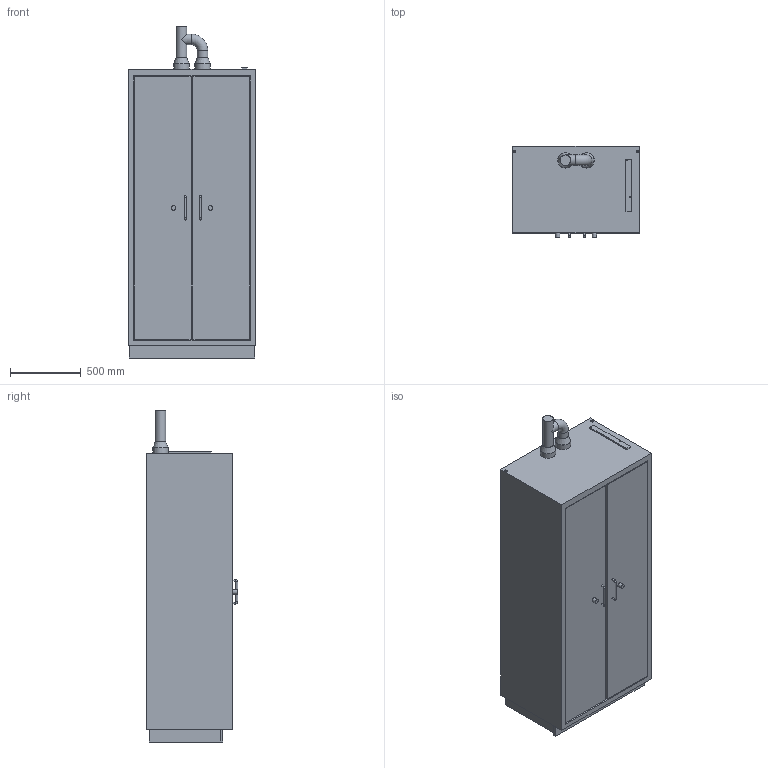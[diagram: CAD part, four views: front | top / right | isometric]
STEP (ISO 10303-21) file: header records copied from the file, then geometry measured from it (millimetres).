
FILE_DESCRIPTION(/* description */ ('Unknown'),/* implementation_level */ '2;1');
FILE_NAME(/* name */ 'BATTERY standard L_D00117490',/* time_stamp */ '2022-04-01T10:14:56+02:00',/* author */ ('Unknown'),/* organization */ ('Unknown'),/* preprocessor_version */ 'ST-DEVELOPER v16.7',/* originating_system */ 'Solid Edge',/* authorisation */ 'Unknown');
FILE_SCHEMA (('AUTOMOTIVE_DESIGN {1 0 10303 214 3 1 1}'));
Length unit declared in the file: millimetre
Products named in the file (1): BATTERY standard L_D00117490
Bounding box: 894 x 647 x 2351 mm (x, y, z)
Volume: 1073474610.7 mm3; surface area: 8522433.9 mm2
Topology: 1 solids, 1 shells, 96 faces, 229 edges, 152 vertices
Faces by surface type: plane 68, cylinder 21, torus 5, cone 2
Full cylindrical faces by diameter (mm): 6.2 x2, 7.5 x2, 12 x6, 30 x4, 32 x2, 75 x3, 109.5 x2
Entity records: 3228 total; most frequent: DIRECTION 428, CARTESIAN_POINT 427, ORIENTED_EDGE 378, EDGE_CURVE 189, EDGE_LOOP 148, FACE_BOUND 148, LINE 144, VECTOR 144
